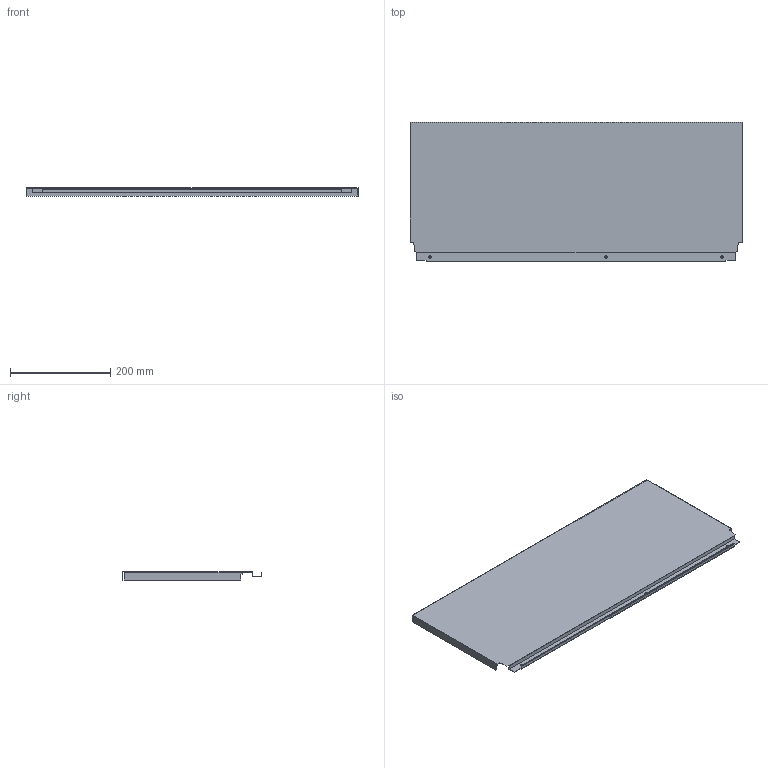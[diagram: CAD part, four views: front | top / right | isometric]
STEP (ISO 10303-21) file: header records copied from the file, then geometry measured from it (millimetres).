
FILE_DESCRIPTION (( 'STEP AP214' ), '1' );
FILE_NAME ('_DWD_XP Stahlrückwand_H278_KAB750_S18.step', '2010-07-08T13:03:59', ( 'grass' ), ( '' ), 'SwSTEP 2.0', 'SolidWorks 2010', '' );
FILE_SCHEMA (( 'AUTOMOTIVE_DESIGN' ));
Length unit declared in the file: millimetre
Products named in the file (1): _DWD_XP Stahlrückwand_H278_KAB750_S18
Bounding box: 663 x 278.57 x 16 mm (x, y, z)
Volume: 184936 mm3; surface area: 422044.3 mm2
Topology: 1 solids, 1 shells, 46 faces, 132 edges, 88 vertices
Faces by surface type: plane 40, cylinder 6
Entity records: 1534 total; most frequent: CARTESIAN_POINT 267, ORIENTED_EDGE 264, DIRECTION 238, EDGE_CURVE 132, VECTOR 120, LINE 120, VERTEX_POINT 88, AXIS2_PLACEMENT_3D 59
